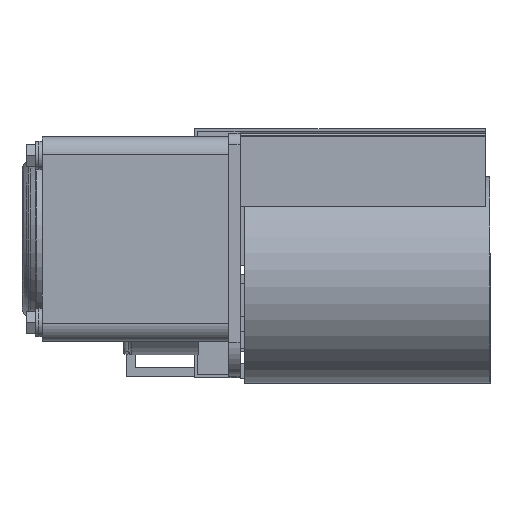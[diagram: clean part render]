
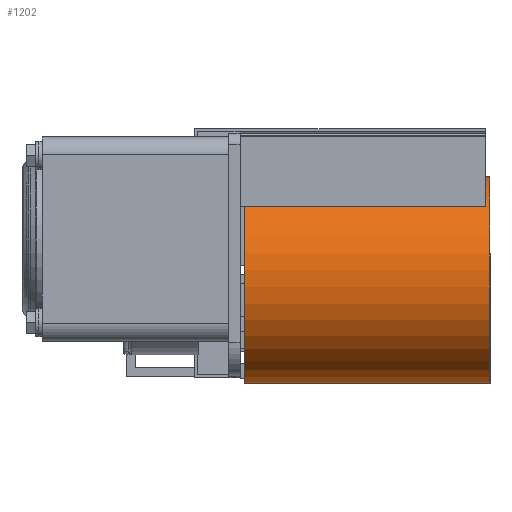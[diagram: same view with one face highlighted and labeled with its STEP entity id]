
A CAD part, left-side view. The second image highlights one B-rep face of the part: STEP entity #1202.
In plain terms, the highlighted cylindrical face has radius 45.45 mm (diameter 90.9 mm), a partial arc.
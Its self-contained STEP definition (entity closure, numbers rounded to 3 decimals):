
#1202=ADVANCED_FACE('',(#4586),#4585,.T.);
#4585=CYLINDRICAL_SURFACE('',#8762,45.45);
#4586=FACE_OUTER_BOUND('',#8763,.T.);
#8759=CARTESIAN_POINT('',(45.,1612.199,44.55));
#8760=DIRECTION('',(0.,1.,0.));
#8761=DIRECTION('',(0.,0.,-1.));
#8762=AXIS2_PLACEMENT_3D('',#8759,#8760,#8761);
#8763=EDGE_LOOP('',(#11612,#11613,#11614,#11615));
#11612=ORIENTED_EDGE('',*,*,#13588,.T.);
#11613=ORIENTED_EDGE('',*,*,#13589,.T.);
#11614=ORIENTED_EDGE('',*,*,#13590,.F.);
#11615=ORIENTED_EDGE('',*,*,#13591,.F.);
#13588=EDGE_CURVE('',#19843,#19844,#19845,.T.);
#13589=EDGE_CURVE('',#19844,#19851,#19852,.T.);
#13590=EDGE_CURVE('',#19858,#19851,#19859,.T.);
#13591=EDGE_CURVE('',#19843,#19858,#19865,.T.);
#19843=VERTEX_POINT('',#26948);
#19844=VERTEX_POINT('',#26949);
#19845=LINE('',#26950,#26951);
#19851=VERTEX_POINT('',#26953);
#19852=CIRCLE('',#26957,45.45);
#19858=VERTEX_POINT('',#26958);
#19859=LINE('',#26959,#26960);
#19865=CIRCLE('',#26965,45.45);
#26948=CARTESIAN_POINT('',(45.,108.,-0.9));
#26949=CARTESIAN_POINT('',(45.,0.,-0.9));
#26950=CARTESIAN_POINT('',(45.,108.,-0.9));
#26951=VECTOR('',#26952,108.);
#26952=DIRECTION('',(0.,-1.,0.));
#26953=CARTESIAN_POINT('',(46.286,0.,89.982));
#26954=CARTESIAN_POINT('',(45.,0.,44.55));
#26955=DIRECTION('',(0.,1.,0.));
#26956=DIRECTION('',(0.,0.,-1.));
#26957=AXIS2_PLACEMENT_3D('',#26954,#26955,#26956);
#26958=CARTESIAN_POINT('',(46.286,108.,89.982));
#26959=CARTESIAN_POINT('',(46.286,108.,89.982));
#26960=VECTOR('',#26961,108.);
#26961=DIRECTION('',(0.,-1.,0.));
#26962=CARTESIAN_POINT('',(45.,108.,44.55));
#26963=DIRECTION('',(0.,1.,0.));
#26964=DIRECTION('',(0.028,0.,1.));
#26965=AXIS2_PLACEMENT_3D('',#26962,#26963,#26964);
